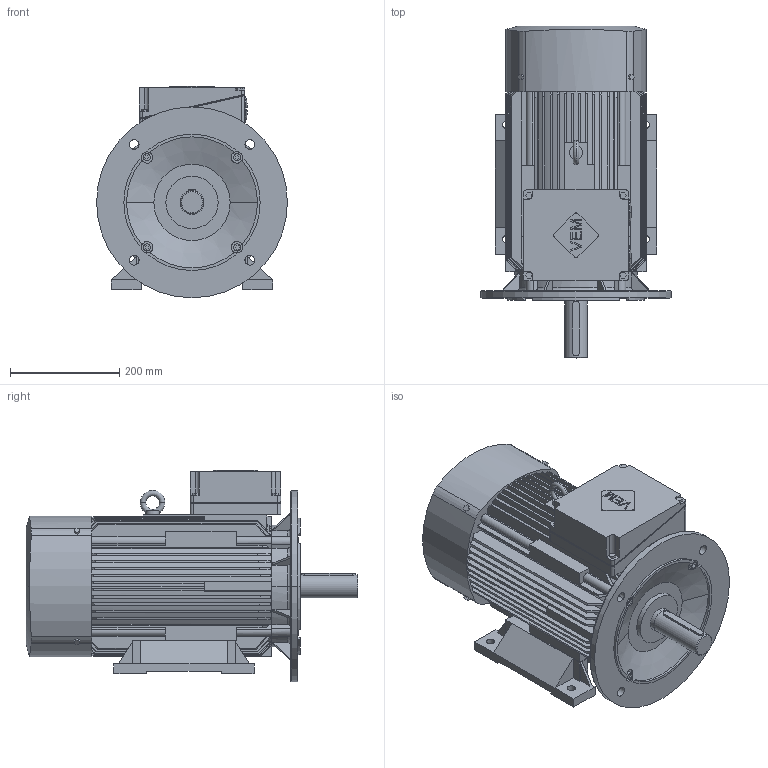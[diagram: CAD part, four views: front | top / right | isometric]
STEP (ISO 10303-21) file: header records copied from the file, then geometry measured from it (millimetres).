
FILE_DESCRIPTION(('STEP AP214'),'1');
FILE_NAME('cctmp_B863CE58-04BC-44EB-AEC5-7020DF81671F_2026_02_09_13_55_20_0216..stp','2026-02-09T12:55:20',('VEM motors GmbH'),('CADClick - www.CADClick.com'),'Spatial InterOp 3D postprocessed',' ','unknown authorization');
FILE_SCHEMA(('AUTOMOTIVE_DESIGN'));
Length unit declared in the file: millimetre
Products named in the file (1): 1
Bounding box: 350 x 608.5 x 388 mm (x, y, z)
Volume: 27717054.9 mm3; surface area: 1426279.8 mm2
Topology: 5 solids, 5 shells, 761 faces, 2126 edges, 1400 vertices
Faces by surface type: plane 467, cylinder 174, cone 92, torus 24, bspline 4
Entity records: 30736 total; most frequent: CARTESIAN_POINT 9146, ORIENTED_EDGE 4252, DIRECTION 3816, EDGE_CURVE 2126, VERTEX_POINT 1400, LINE 1320, VECTOR 1320, AXIS2_PLACEMENT_3D 1248
